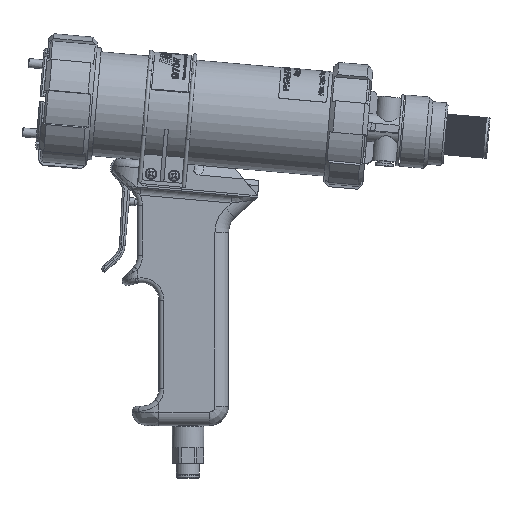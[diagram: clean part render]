
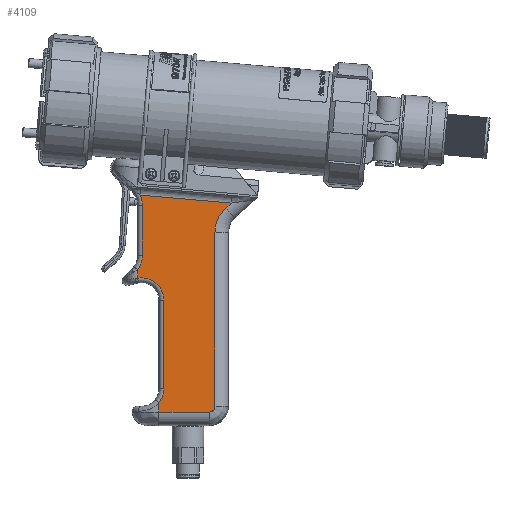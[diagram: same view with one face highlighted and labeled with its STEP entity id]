
A CAD part, top view. The second image highlights one B-rep face of the part: STEP entity #4109.
In plain terms, the highlighted planar face has unit normal (0, 0, 1).
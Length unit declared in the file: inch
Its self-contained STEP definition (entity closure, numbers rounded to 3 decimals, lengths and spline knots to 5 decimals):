
#3758=CARTESIAN_POINT('',(0.45003,4.14111,0.47244));
#3759=VERTEX_POINT('',#3758);
#3777=CARTESIAN_POINT('',(-1.40541,4.30344,0.47244));
#3778=VERTEX_POINT('',#3777);
#3786=CARTESIAN_POINT('',(-1.40541,4.30344,0.47244));
#3787=DIRECTION('',(0.996,-0.087,0.0));
#3788=VECTOR('',#3787,1.86254);
#3789=LINE('',#3786,#3788);
#3790=EDGE_CURVE('',#3778,#3759,#3789,.T.);
#3974=CARTESIAN_POINT('',(0.33831,4.04011,0.47244));
#3975=VERTEX_POINT('',#3974);
#3976=CARTESIAN_POINT('',(0.45003,4.14111,0.47244));
#3977=DIRECTION('',(-0.742,-0.671,0.0));
#3978=VECTOR('',#3977,0.15061);
#3979=LINE('',#3976,#3978);
#3980=EDGE_CURVE('',#3759,#3975,#3979,.T.);
#4000=CARTESIAN_POINT('',(-0.58125,2.39716,0.47244));
#4001=DIRECTION('',(0.0,0.0,1.0));
#4002=DIRECTION('',(1.0,0.0,0.0));
#4003=AXIS2_PLACEMENT_3D('',#4000,#4001,#4002);
#4004=PLANE('',#4003);
#4005=ORIENTED_EDGE('',*,*,#3790,.F.);
#4006=CARTESIAN_POINT('',(-1.35869,4.09417,0.47244));
#4007=VERTEX_POINT('',#4006);
#4008=CARTESIAN_POINT('',(-1.85069,4.09417,0.47244));
#4009=DIRECTION('',(0.0,0.0,1.0));
#4010=DIRECTION('',(0.924,0.383,0.0));
#4011=AXIS2_PLACEMENT_3D('',#4008,#4009,#4010);
#4012=CIRCLE('',#4011,0.492);
#4013=EDGE_CURVE('',#4007,#3778,#4012,.T.);
#4014=ORIENTED_EDGE('',*,*,#4013,.F.);
#4015=CARTESIAN_POINT('',(-1.35869,3.07798,0.47244));
#4016=VERTEX_POINT('',#4015);
#4017=CARTESIAN_POINT('',(-1.35869,3.07798,0.47244));
#4018=DIRECTION('',(0.0,1.0,0.0));
#4019=VECTOR('',#4018,1.01619);
#4020=LINE('',#4017,#4019);
#4021=EDGE_CURVE('',#4016,#4007,#4020,.T.);
#4022=ORIENTED_EDGE('',*,*,#4021,.F.);
#4023=CARTESIAN_POINT('',(-1.45669,2.78332,0.47244));
#4024=VERTEX_POINT('',#4023);
#4025=CARTESIAN_POINT('',(-1.85069,3.07798,0.47244));
#4026=DIRECTION('',(0.0,0.0,1.0));
#4027=DIRECTION('',(1.0,0.0,0.0));
#4028=AXIS2_PLACEMENT_3D('',#4025,#4026,#4027);
#4029=CIRCLE('',#4028,0.492);
#4030=EDGE_CURVE('',#4024,#4016,#4029,.T.);
#4031=ORIENTED_EDGE('',*,*,#4030,.F.);
#4032=CARTESIAN_POINT('',(-1.45669,2.61081,0.47244));
#4033=VERTEX_POINT('',#4032);
#4034=CARTESIAN_POINT('',(-1.45669,2.61081,0.47244));
#4035=DIRECTION('',(0.0,1.0,0.0));
#4036=VECTOR('',#4035,0.17251);
#4037=LINE('',#4034,#4036);
#4038=EDGE_CURVE('',#4033,#4024,#4037,.T.);
#4039=ORIENTED_EDGE('',*,*,#4038,.F.);
#4040=CARTESIAN_POINT('',(-0.92562,2.16578,0.47244));
#4041=VERTEX_POINT('',#4040);
#4042=CARTESIAN_POINT('',(-1.37762,2.16578,0.47244));
#4043=DIRECTION('',(0.0,0.0,1.0));
#4044=DIRECTION('',(0.623,0.782,0.0));
#4045=AXIS2_PLACEMENT_3D('',#4042,#4043,#4044);
#4046=CIRCLE('',#4045,0.452);
#4047=EDGE_CURVE('',#4041,#4033,#4046,.T.);
#4048=ORIENTED_EDGE('',*,*,#4047,.F.);
#4049=CARTESIAN_POINT('',(-0.92562,0.354,0.47244));
#4050=VERTEX_POINT('',#4049);
#4051=CARTESIAN_POINT('',(-0.92562,0.354,0.47244));
#4052=DIRECTION('',(0.0,1.0,0.0));
#4053=VECTOR('',#4052,1.81178);
#4054=LINE('',#4051,#4053);
#4055=EDGE_CURVE('',#4050,#4041,#4054,.T.);
#4056=ORIENTED_EDGE('',*,*,#4055,.F.);
#4057=CARTESIAN_POINT('',(-1.02362,0.07295,0.47244));
#4058=VERTEX_POINT('',#4057);
#4059=CARTESIAN_POINT('',(-1.37762,0.354,0.47244));
#4060=DIRECTION('',(0.0,0.0,1.0));
#4061=DIRECTION('',(1.0,0.0,0.0));
#4062=AXIS2_PLACEMENT_3D('',#4059,#4060,#4061);
#4063=CIRCLE('',#4062,0.452);
#4064=EDGE_CURVE('',#4058,#4050,#4063,.T.);
#4065=ORIENTED_EDGE('',*,*,#4064,.F.);
#4066=CARTESIAN_POINT('',(-1.02362,-0.1177,0.47244));
#4067=VERTEX_POINT('',#4066);
#4068=CARTESIAN_POINT('',(-1.02362,-0.1177,0.47244));
#4069=DIRECTION('',(0.0,1.0,0.0));
#4070=VECTOR('',#4069,0.19065);
#4071=LINE('',#4068,#4070);
#4072=EDGE_CURVE('',#4067,#4058,#4071,.T.);
#4073=ORIENTED_EDGE('',*,*,#4072,.F.);
#4074=CARTESIAN_POINT('',(-0.0003,-0.1177,0.47244));
#4075=VERTEX_POINT('',#4074);
#4076=CARTESIAN_POINT('',(-0.0003,-0.1177,0.47244));
#4077=DIRECTION('',(-1.0,0.0,0.0));
#4078=VECTOR('',#4077,1.02332);
#4079=LINE('',#4076,#4078);
#4080=EDGE_CURVE('',#4075,#4067,#4079,.T.);
#4081=ORIENTED_EDGE('',*,*,#4080,.F.);
#4082=CARTESIAN_POINT('',(0.1177,0.0003,0.47244));
#4083=VERTEX_POINT('',#4082);
#4084=CARTESIAN_POINT('',(-0.0003,0.0003,0.47244));
#4085=DIRECTION('',(0.0,0.0,-1.0));
#4086=DIRECTION('',(0.707,-0.707,0.0));
#4087=AXIS2_PLACEMENT_3D('',#4084,#4085,#4086);
#4088=CIRCLE('',#4087,0.118);
#4089=EDGE_CURVE('',#4083,#4075,#4088,.T.);
#4090=ORIENTED_EDGE('',*,*,#4089,.F.);
#4091=CARTESIAN_POINT('',(0.1177,3.54331,0.47244));
#4092=VERTEX_POINT('',#4091);
#4093=CARTESIAN_POINT('',(0.1177,3.54331,0.47244));
#4094=DIRECTION('',(0.0,-1.0,0.0));
#4095=VECTOR('',#4094,3.54301);
#4096=LINE('',#4093,#4095);
#4097=EDGE_CURVE('',#4092,#4083,#4096,.T.);
#4098=ORIENTED_EDGE('',*,*,#4097,.F.);
#4099=CARTESIAN_POINT('',(0.7874,3.54331,0.47244));
#4100=DIRECTION('',(0.0,0.0,1.0));
#4101=DIRECTION('',(-0.914,0.406,0.0));
#4102=AXIS2_PLACEMENT_3D('',#4099,#4100,#4101);
#4103=CIRCLE('',#4102,0.6697);
#4104=EDGE_CURVE('',#3975,#4092,#4103,.T.);
#4105=ORIENTED_EDGE('',*,*,#4104,.F.);
#4106=ORIENTED_EDGE('',*,*,#3980,.F.);
#4107=EDGE_LOOP('',(#4005,#4014,#4022,#4031,#4039,#4048,#4056,#4065,#4073,#4081,#4090,#4098,#4105,#4106));
#4108=FACE_OUTER_BOUND('',#4107,.T.);
#4109=ADVANCED_FACE('',(#4108),#4004,.T.);
